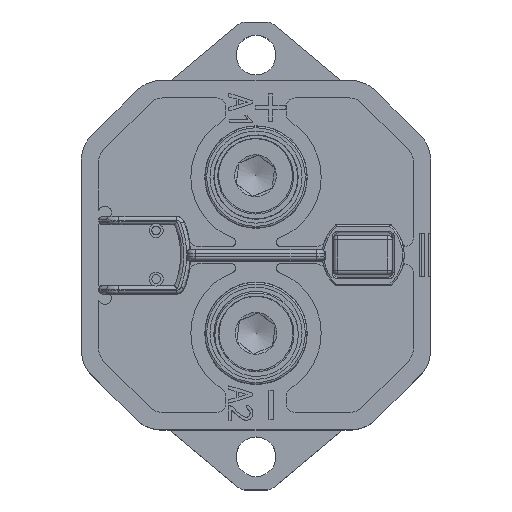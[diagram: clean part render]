
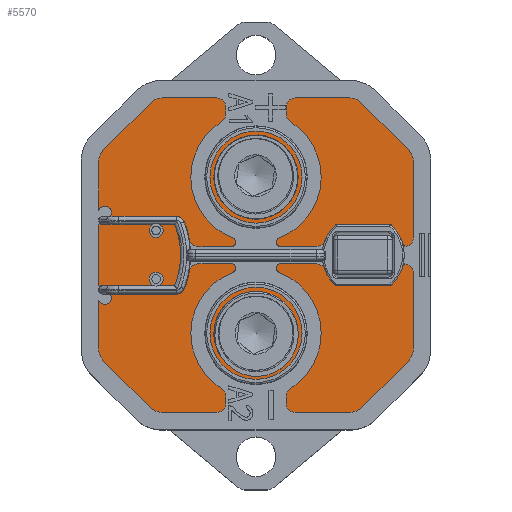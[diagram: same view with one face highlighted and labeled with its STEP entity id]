
A CAD part, top view. The second image highlights one B-rep face of the part: STEP entity #5570.
In plain terms, the highlighted planar face has unit normal (0, 0, 1).
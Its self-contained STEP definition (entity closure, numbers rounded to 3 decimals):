
#1850=FACE_OUTER_BOUND('',#7120,.T.);
#2830=LINE('',#26242,#3999);
#2834=LINE('',#26254,#4003);
#2838=LINE('',#26266,#4007);
#2842=LINE('',#26278,#4011);
#2846=LINE('',#26290,#4015);
#2850=LINE('',#26302,#4019);
#2854=LINE('',#26314,#4023);
#2858=LINE('',#26326,#4027);
#3999=VECTOR('',#20512,1.);
#4003=VECTOR('',#20524,1.);
#4007=VECTOR('',#20536,1.);
#4011=VECTOR('',#20548,1.);
#4015=VECTOR('',#20560,1.);
#4019=VECTOR('',#20572,1.);
#4023=VECTOR('',#20584,1.);
#4027=VECTOR('',#20596,1.);
#5570=ADVANCED_FACE('',(#1850),#6270,.F.);
#6270=PLANE('',#17522);
#7120=EDGE_LOOP('',(#9640,#9641,#9642,#9643,#9644,#9645,#9646,#9647,#9648,
#9649,#9650,#9651,#9652,#9653,#9654,#9655));
#9640=ORIENTED_EDGE('',*,*,#14581,.F.);
#9641=ORIENTED_EDGE('',*,*,#14626,.F.);
#9642=ORIENTED_EDGE('',*,*,#14623,.F.);
#9643=ORIENTED_EDGE('',*,*,#14620,.F.);
#9644=ORIENTED_EDGE('',*,*,#14617,.F.);
#9645=ORIENTED_EDGE('',*,*,#14614,.F.);
#9646=ORIENTED_EDGE('',*,*,#14611,.F.);
#9647=ORIENTED_EDGE('',*,*,#14608,.F.);
#9648=ORIENTED_EDGE('',*,*,#14605,.F.);
#9649=ORIENTED_EDGE('',*,*,#14602,.F.);
#9650=ORIENTED_EDGE('',*,*,#14599,.F.);
#9651=ORIENTED_EDGE('',*,*,#14596,.F.);
#9652=ORIENTED_EDGE('',*,*,#14593,.F.);
#9653=ORIENTED_EDGE('',*,*,#14590,.F.);
#9654=ORIENTED_EDGE('',*,*,#14587,.F.);
#9655=ORIENTED_EDGE('',*,*,#14584,.F.);
#12813=VERTEX_POINT('',#26241);
#12814=VERTEX_POINT('',#26243);
#12816=VERTEX_POINT('',#26249);
#12818=VERTEX_POINT('',#26255);
#12820=VERTEX_POINT('',#26261);
#12822=VERTEX_POINT('',#26267);
#12824=VERTEX_POINT('',#26273);
#12826=VERTEX_POINT('',#26279);
#12828=VERTEX_POINT('',#26285);
#12830=VERTEX_POINT('',#26291);
#12832=VERTEX_POINT('',#26297);
#12834=VERTEX_POINT('',#26303);
#12836=VERTEX_POINT('',#26309);
#12838=VERTEX_POINT('',#26315);
#12840=VERTEX_POINT('',#26321);
#12842=VERTEX_POINT('',#26327);
#14581=EDGE_CURVE('',#12813,#12814,#2830,.T.);
#14584=EDGE_CURVE('',#12814,#12816,#16277,.T.);
#14587=EDGE_CURVE('',#12816,#12818,#2834,.T.);
#14590=EDGE_CURVE('',#12818,#12820,#16279,.T.);
#14593=EDGE_CURVE('',#12820,#12822,#2838,.T.);
#14596=EDGE_CURVE('',#12822,#12824,#16281,.T.);
#14599=EDGE_CURVE('',#12824,#12826,#2842,.T.);
#14602=EDGE_CURVE('',#12826,#12828,#16283,.T.);
#14605=EDGE_CURVE('',#12828,#12830,#2846,.T.);
#14608=EDGE_CURVE('',#12830,#12832,#16285,.T.);
#14611=EDGE_CURVE('',#12832,#12834,#2850,.T.);
#14614=EDGE_CURVE('',#12834,#12836,#16287,.T.);
#14617=EDGE_CURVE('',#12836,#12838,#2854,.T.);
#14620=EDGE_CURVE('',#12838,#12840,#16289,.T.);
#14623=EDGE_CURVE('',#12840,#12842,#2858,.T.);
#14626=EDGE_CURVE('',#12842,#12813,#16291,.T.);
#16277=CIRCLE('',#17492,2.);
#16279=CIRCLE('',#17496,2.);
#16281=CIRCLE('',#17500,2.);
#16283=CIRCLE('',#17504,2.);
#16285=CIRCLE('',#17508,2.);
#16287=CIRCLE('',#17512,2.);
#16289=CIRCLE('',#17516,2.);
#16291=CIRCLE('',#17520,2.);
#17492=AXIS2_PLACEMENT_3D('',#26248,#20518,#20519);
#17496=AXIS2_PLACEMENT_3D('',#26260,#20530,#20531);
#17500=AXIS2_PLACEMENT_3D('',#26272,#20542,#20543);
#17504=AXIS2_PLACEMENT_3D('',#26284,#20554,#20555);
#17508=AXIS2_PLACEMENT_3D('',#26296,#20566,#20567);
#17512=AXIS2_PLACEMENT_3D('',#26308,#20578,#20579);
#17516=AXIS2_PLACEMENT_3D('',#26320,#20590,#20591);
#17520=AXIS2_PLACEMENT_3D('',#26331,#20602,#20603);
#17522=AXIS2_PLACEMENT_3D('',#26333,#20606,#20607);
#20512=DIRECTION('',(0.,1.,0.));
#20518=DIRECTION('',(0.,0.,-1.));
#20519=DIRECTION('',(1.,0.,0.));
#20524=DIRECTION('',(0.707,0.707,0.));
#20530=DIRECTION('',(0.,0.,-1.));
#20531=DIRECTION('',(1.,0.,0.));
#20536=DIRECTION('',(1.,0.,0.));
#20542=DIRECTION('',(0.,0.,-1.));
#20543=DIRECTION('',(1.,0.,0.));
#20548=DIRECTION('',(0.707,-0.707,0.));
#20554=DIRECTION('',(0.,0.,-1.));
#20555=DIRECTION('',(1.,0.,0.));
#20560=DIRECTION('',(0.,-1.,0.));
#20566=DIRECTION('',(0.,0.,-1.));
#20567=DIRECTION('',(1.,0.,0.));
#20572=DIRECTION('',(-0.707,-0.707,0.));
#20578=DIRECTION('',(0.,0.,-1.));
#20579=DIRECTION('',(1.,0.,0.));
#20584=DIRECTION('',(-1.,0.,0.));
#20590=DIRECTION('',(0.,0.,-1.));
#20591=DIRECTION('',(1.,0.,0.));
#20596=DIRECTION('',(-0.707,0.707,0.));
#20602=DIRECTION('',(0.,0.,-1.));
#20603=DIRECTION('',(1.,0.,0.));
#20606=DIRECTION('',(0.,0.,-1.));
#20607=DIRECTION('',(-1.,0.,0.));
#26241=CARTESIAN_POINT('',(-18.186,-10.771,50.2));
#26242=CARTESIAN_POINT('',(-18.186,-10.771,50.2));
#26243=CARTESIAN_POINT('',(-18.186,10.772,50.2));
#26248=CARTESIAN_POINT('',(-16.186,10.772,50.2));
#26249=CARTESIAN_POINT('',(-17.6,12.186,50.2));
#26254=CARTESIAN_POINT('',(-17.6,12.186,50.2));
#26255=CARTESIAN_POINT('',(-12.271,17.514,50.2));
#26260=CARTESIAN_POINT('',(-10.857,16.1,50.2));
#26261=CARTESIAN_POINT('',(-10.857,18.1,50.2));
#26266=CARTESIAN_POINT('',(-10.857,18.1,50.2));
#26267=CARTESIAN_POINT('',(10.686,18.1,50.2));
#26272=CARTESIAN_POINT('',(10.686,16.1,50.2));
#26273=CARTESIAN_POINT('',(12.1,17.514,50.2));
#26278=CARTESIAN_POINT('',(12.1,17.514,50.2));
#26279=CARTESIAN_POINT('',(17.429,12.186,50.2));
#26284=CARTESIAN_POINT('',(16.014,10.772,50.2));
#26285=CARTESIAN_POINT('',(18.014,10.772,50.2));
#26290=CARTESIAN_POINT('',(18.014,10.772,50.2));
#26291=CARTESIAN_POINT('',(18.014,-10.771,50.2));
#26296=CARTESIAN_POINT('',(16.014,-10.771,50.2));
#26297=CARTESIAN_POINT('',(17.429,-12.186,50.2));
#26302=CARTESIAN_POINT('',(17.429,-12.186,50.2));
#26303=CARTESIAN_POINT('',(12.1,-17.514,50.2));
#26308=CARTESIAN_POINT('',(10.686,-16.1,50.2));
#26309=CARTESIAN_POINT('',(10.686,-18.1,50.2));
#26314=CARTESIAN_POINT('',(10.686,-18.1,50.2));
#26315=CARTESIAN_POINT('',(-10.857,-18.1,50.2));
#26320=CARTESIAN_POINT('',(-10.857,-16.1,50.2));
#26321=CARTESIAN_POINT('',(-12.271,-17.514,50.2));
#26326=CARTESIAN_POINT('',(-12.271,-17.514,50.2));
#26327=CARTESIAN_POINT('',(-17.6,-12.186,50.2));
#26331=CARTESIAN_POINT('',(-16.186,-10.771,50.2));
#26333=CARTESIAN_POINT('',(-16.186,10.772,50.2));
